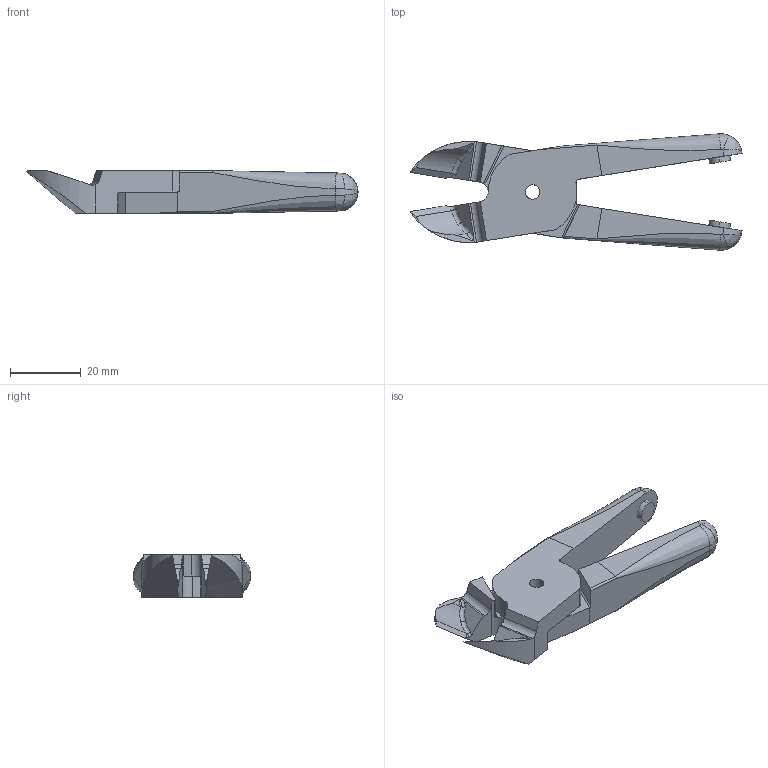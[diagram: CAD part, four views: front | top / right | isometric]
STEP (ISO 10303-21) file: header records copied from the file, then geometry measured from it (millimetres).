
FILE_DESCRIPTION (( 'STEP AP214' ), '1' );
FILE_NAME ('N20PF.STEP', '2019-11-29T08:26:37', ( '微软用户' ), ( '微软中国' ), 'SwSTEP 2.0', 'SolidWorks 2016', '' );
FILE_SCHEMA (( 'AUTOMOTIVE_DESIGN' ));
Length unit declared in the file: millimetre
Products named in the file (3): N20PF-B-03; N20PF-A-03; N20PF
Assembly tree (2 placements, depth 2):
  N20PF
    N20PF-A-03
    N20PF-B-03
Bounding box: 93.58 x 32.82 x 12 mm (x, y, z)
Volume: 16657.5 mm3; surface area: 8248.7 mm2
Topology: 2 solids, 2 shells, 116 faces, 326 edges, 216 vertices
Faces by surface type: cylinder 52, plane 48, bspline 16
Entity records: 7246 total; most frequent: CARTESIAN_POINT 4407, ORIENTED_EDGE 652, DIRECTION 468, EDGE_CURVE 326, VERTEX_POINT 216, AXIS2_PLACEMENT_3D 159, LINE 150, VECTOR 150
